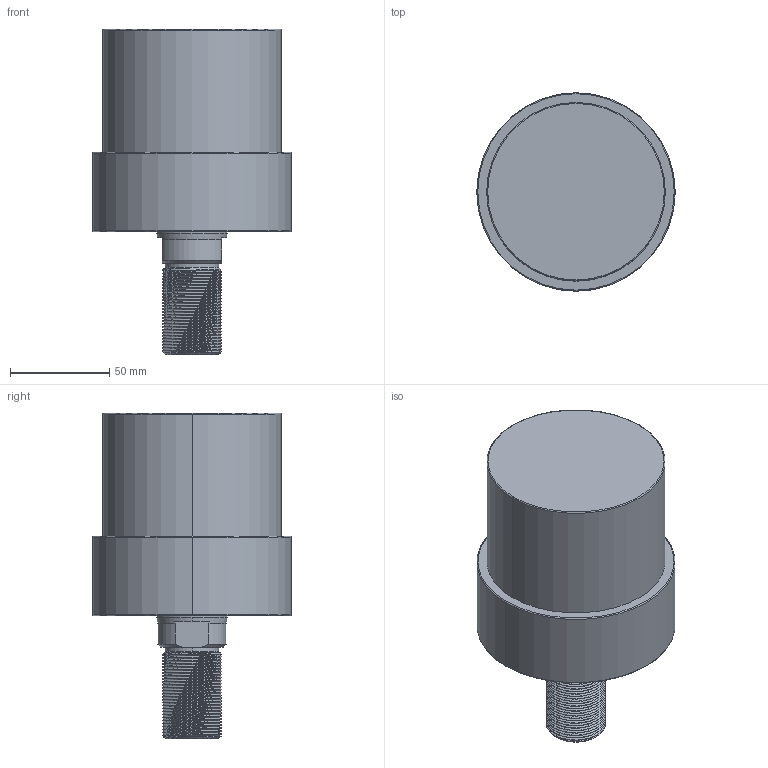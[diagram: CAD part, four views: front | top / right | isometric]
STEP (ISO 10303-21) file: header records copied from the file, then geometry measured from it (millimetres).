
FILE_DESCRIPTION (( 'STEP AP203' ), '1' );
FILE_NAME ('CLLU-090GT-040.STEP', '2020-01-13T02:37:55', ( '' ), ( '' ), 'SwSTEP 2.0', 'SolidWorks 2015', '' );
FILE_SCHEMA (( 'CONFIG_CONTROL_DESIGN' ));
Length unit declared in the file: millimetre
Products named in the file (1): CLLU-090GT-040
Bounding box: 100 x 100 x 164 mm (x, y, z)
Volume: 747149.4 mm3; surface area: 57412.8 mm2
Topology: 1 solids, 1 shells, 123 faces, 321 edges, 201 vertices
Faces by surface type: cylinder 78, cone 26, plane 11, torus 6, bspline 2
Entity records: 7143 total; most frequent: CARTESIAN_POINT 4408, ORIENTED_EDGE 626, DIRECTION 501, EDGE_CURVE 313, VERTEX_POINT 201, AXIS2_PLACEMENT_3D 197, EDGE_LOOP 132, ADVANCED_FACE 123
